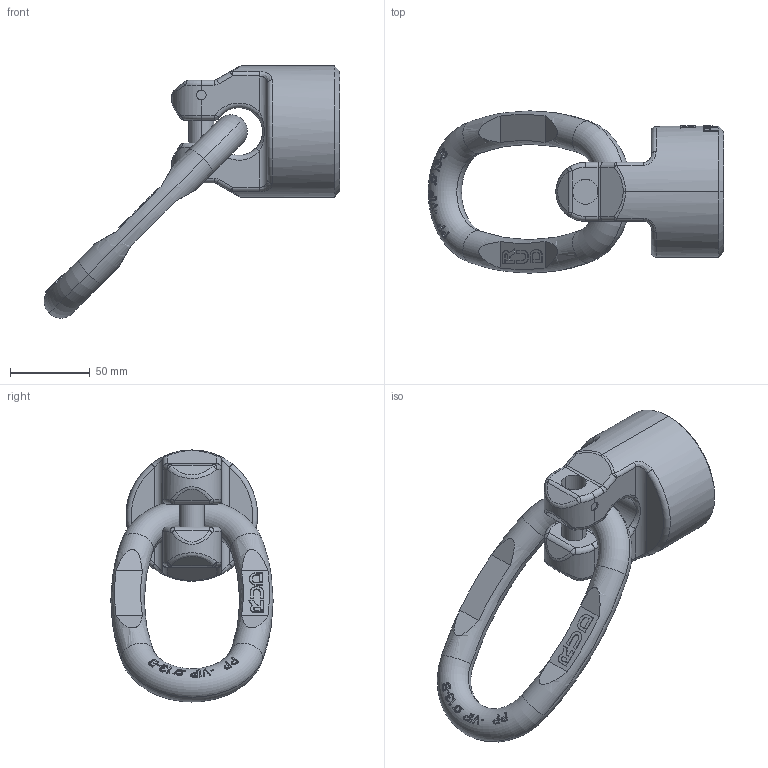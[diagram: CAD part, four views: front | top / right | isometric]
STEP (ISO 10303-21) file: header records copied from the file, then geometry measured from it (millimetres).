
FILE_DESCRIPTION((''),'2;1');
FILE_NAME('001-M31395-P-50_ASM','2018-04-26T',('Anja.Joas'),(''),'PRO/ENGINEER BY PARAMETRIC TECHNOLOGY CORPORATION, 2011490','PRO/ENGINEER BY PARAMETRIC TECHNOLOGY CORPORATION, 2011490','');
FILE_SCHEMA(('CONFIG_CONTROL_DESIGN'));
Length unit declared in the file: millimetre
Products named in the file (3): 001-M31395-P-20_AF0; 001-M31290-004; 001-M31395-P-50_ASM
Assembly tree (2 placements, depth 2):
  001-M31395-P-50_ASM
    001-M31395-P-20_AF0
    001-M31290-004
Bounding box: 185.73 x 102 x 158.48 mm (x, y, z)
Volume: 470342.6 mm3; surface area: 60586.9 mm2
Topology: 2 solids, 2 shells, 593 faces, 1579 edges, 1026 vertices
Faces by surface type: plane 464, cylinder 64, torus 32, bspline 26, sphere 4, cone 2, extrusion 1
Entity records: 20704 total; most frequent: CARTESIAN_POINT 6696, ORIENTED_EDGE 3158, DIRECTION 2492, EDGE_CURVE 1579, VERTEX_POINT 1026, VECTOR 842, LINE 841, AXIS2_PLACEMENT_3D 825
